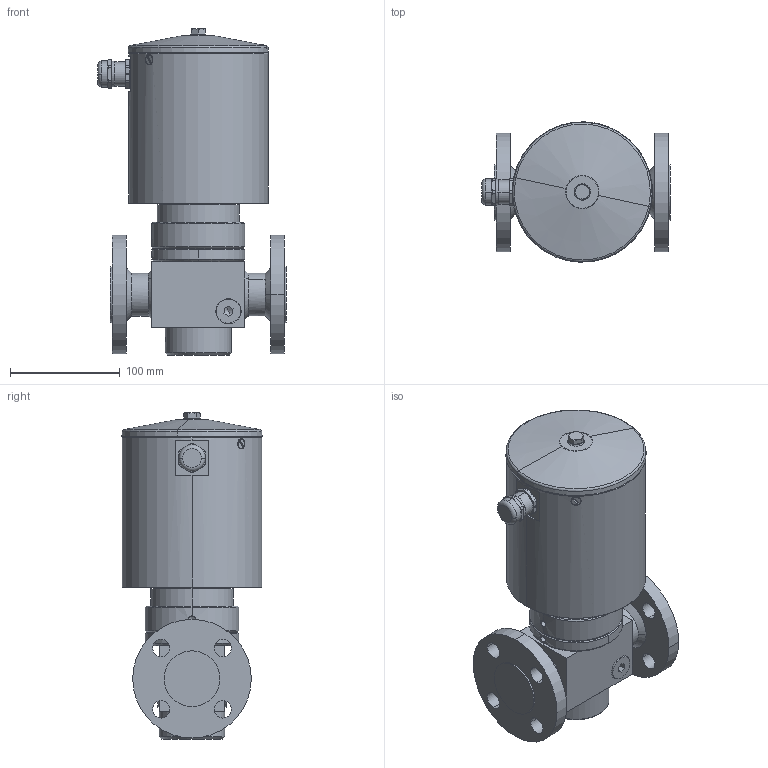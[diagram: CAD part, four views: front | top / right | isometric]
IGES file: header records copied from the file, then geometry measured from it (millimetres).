
Global section: file name: No Iges File Name specified; native system: AutoDesk Inventor R12.0; preprocessor: AutoDesk Inventor Iges Exporter R12.0; date: 20091110.105439; units: millimetre
Bounding box: 171.5 x 127.89 x 297.1 mm (x, y, z)
Volume: 2811669.4 mm3; surface area: 178005.3 mm2
Topology: 1 solids, 1 shells, 258 faces, 630 edges, 396 vertices
Faces by surface type: plane 89, cone 58, cylinder 57, revolution 25, bspline 21, torus 8
